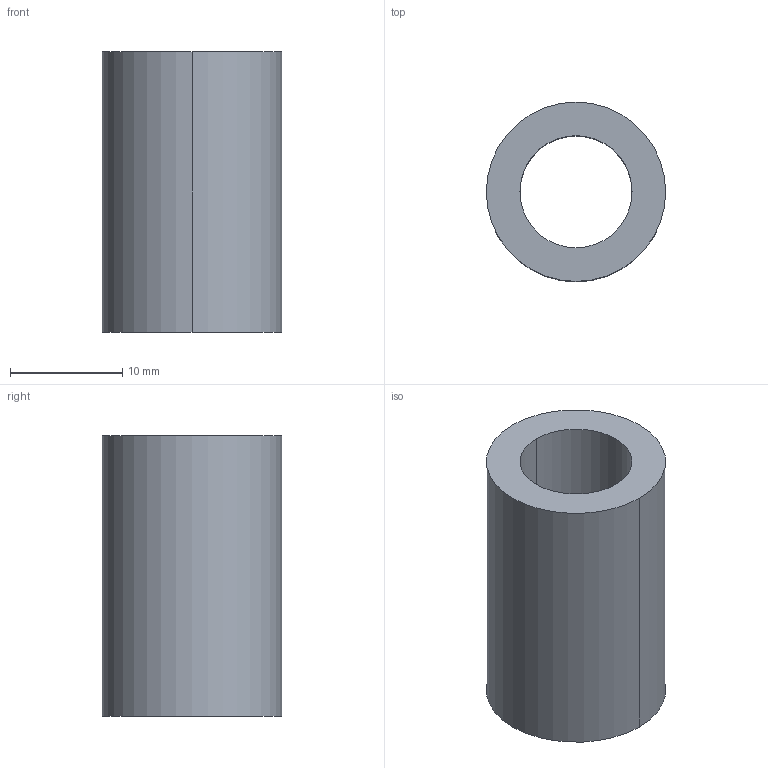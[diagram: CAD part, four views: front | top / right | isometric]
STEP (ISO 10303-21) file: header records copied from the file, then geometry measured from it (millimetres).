
FILE_DESCRIPTION(/* description */ (''),/* implementation_level */ '2;1');
FILE_NAME(/* name */ '3d_tgsf10-25_00368_r00.stp',/* time_stamp */ '2011-01-10T14:09:01+09:00',/* author */ ('MISUMI'),/* organization */ (''),/* preprocessor_version */ 'ST-DEVELOPER v11',/* originating_system */ 'UGS - NX 5.0',/* authorisation */ '');
FILE_SCHEMA (('CONFIG_CONTROL_DESIGN'));
Length unit declared in the file: millimetre
Products named in the file (1): 3d_tgsf10-25_00368_r00
Bounding box: 16 x 16 x 25 mm (x, y, z)
Volume: 3063.1 mm3; surface area: 2287.1 mm2
Topology: 1 solids, 1 shells, 6 faces, 12 edges, 8 vertices
Faces by surface type: cylinder 4, plane 2
Entity records: 254 total; most frequent: DIRECTION 34, CARTESIAN_POINT 27, ORIENTED_EDGE 24, AXIS2_PLACEMENT_3D 15, EDGE_CURVE 12, EDGE_LOOP 8, CIRCLE 8, VERTEX_POINT 8
